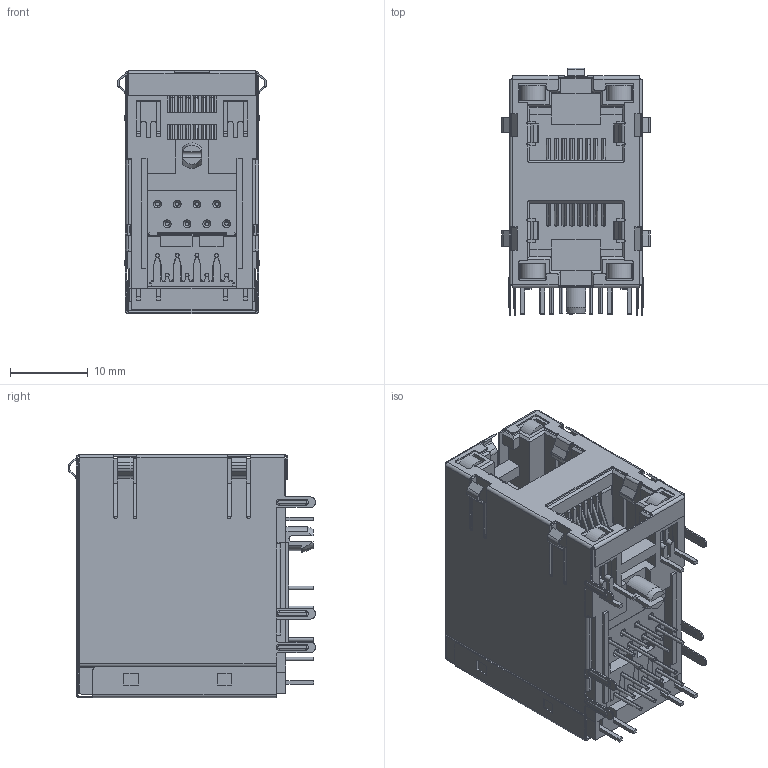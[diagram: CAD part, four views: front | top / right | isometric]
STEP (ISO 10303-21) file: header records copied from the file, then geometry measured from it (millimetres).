
FILE_DESCRIPTION((''),'2;1');
FILE_NAME('5921S-LED-2X1-EMI_ASM_33_ASM_1__ASM','2022-07-18T15:29:56',('Administrator'),(''),'CREO PARAMETRIC BY PTC INC, 2018400','CREO PARAMETRIC BY PTC INC, 2018400','');
FILE_SCHEMA(('CONFIG_CONTROL_DESIGN'));
Length unit declared in the file: millimetre
Products named in the file (30): 5921-LED-2X1-00_33_1_1_1_1_1_1_; 5921-LED-2X1-00_33_2_1_1_1_1_1_; 5921-LED-2X1-00_33_3_1_1_1_1_1_; 5921-LED-2X1-00_33_ASM_1_ASM_1__ASM; 5921-LED-2X1-000_8_1_1_1_1_1_1_; 5921-LED-2XN-1000_18_1_1_1_1_1_; 5921-LED-2XN-000_ASM_5_ASM_1_AS_ASM; 5921-LED-2XN-2000_12_1_1_1_1_1_; 5921-LED-2XN-1000_11_1_1_1_1_1_; 5921-LED-2XN-000_ASM_4_ASM_1_AS_ASM; 5921-LED-2X1-000_12_1_1_1_1_1_1; 5921-LED-2X1-000_25_1_1_1_1_1_1; 13_1_1_1; 13_1_2_1; 13_1_3_1; 13_1_4_1; 13_1_5_1; 13_1_6_1; 13_1_7_1; 13_1_8_1; 13_1_9_1; 13_1_10_1; 13_1_11_1; 13_1_12_1; 13_1_13_1; 13_1_14_1; 13_1_15_1; 13_1_16_1; 13_1_ASM_1_ASM; 5921S-LED-2X1-EMI_ASM_33_ASM_1__ASM
Assembly tree (29 placements, depth 3):
  5921S-LED-2X1-EMI_ASM_33_ASM_1__ASM
    5921-LED-2X1-00_33_ASM_1_ASM_1__ASM
      5921-LED-2X1-00_33_1_1_1_1_1_1_
      5921-LED-2X1-00_33_2_1_1_1_1_1_
      5921-LED-2X1-00_33_3_1_1_1_1_1_
    5921-LED-2X1-000_8_1_1_1_1_1_1_
    5921-LED-2XN-000_ASM_5_ASM_1_AS_ASM
      5921-LED-2XN-1000_18_1_1_1_1_1_
    5921-LED-2XN-000_ASM_4_ASM_1_AS_ASM
      5921-LED-2XN-2000_12_1_1_1_1_1_
      5921-LED-2XN-1000_11_1_1_1_1_1_
    5921-LED-2X1-000_12_1_1_1_1_1_1
    5921-LED-2X1-000_25_1_1_1_1_1_1
    13_1_ASM_1_ASM
      13_1_1_1
      13_1_2_1
      13_1_3_1
      13_1_4_1
      13_1_5_1
      13_1_6_1
      13_1_7_1
      13_1_8_1
      13_1_9_1
      13_1_10_1
      13_1_11_1
      13_1_12_1
      13_1_13_1
      13_1_14_1
      13_1_15_1
      13_1_16_1
Bounding box: 19.13 x 31.82 x 31.29 mm (x, y, z)
Volume: 8641.9 mm3; surface area: 20408.2 mm2
Topology: 25 solids, 25 shells, 1831 faces, 5126 edges, 3310 vertices
Faces by surface type: plane 1210, cylinder 467, torus 92, cone 50, bspline 12
Entity records: 60272 total; most frequent: CARTESIAN_POINT 11681, ORIENTED_EDGE 10252, DIRECTION 9957, EDGE_CURVE 5126, VECTOR 3829, LINE 3829, VERTEX_POINT 3310, AXIS2_PLACEMENT_3D 3064
